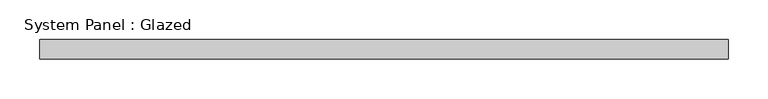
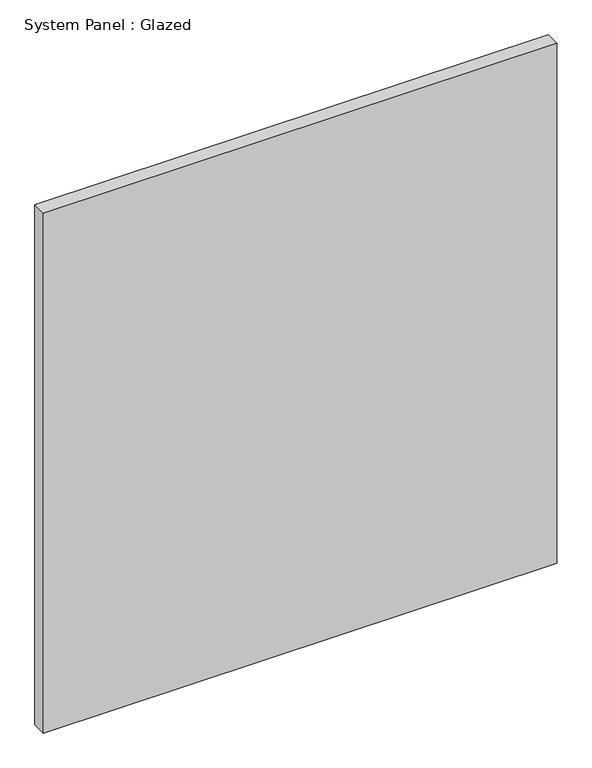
"""IFC4 building model written with IfcOpenShell, lengths in millimetres: plate geometry, System Panel : Glazed."""

from ifc_helpers import new_model, si_unit, origin, origin_with_axes, place, context, project, spatial, polyline, outline, extrude, source, transform, mapped, element, save


def system_panel_glazed_a50661dc(model_context):
    return source(origin(), model_context, "Body", "SweptSolid", [
        extrude(outline(polyline([(434.9959168, -72.5), (-434.9959168, -72.5), (-434.9959168, -47.5), (434.9959168, -47.5), (434.9959168, -72.5)])), origin_with_axes(), (0.0, 0.0, 1.0), 931.25),
    ])


if __name__ == "__main__":
    model = new_model("IFC4")
    model_context = context("Model", 3, world=origin())
    ifc_project = project(units=[si_unit("LENGTHUNIT", "METRE", prefix="MILLI")], contexts=[model_context])
    site = spatial("IfcSite", under=ifc_project)
    building = spatial("IfcBuilding", under=site)
    placement = place(None, origin())
    system_panel_glazed_shape = system_panel_glazed_a50661dc(model_context)
    element("IfcPlate", 1, ObjectType="System Panel : Glazed", at=placement, inside=building, context=model_context, shape_type="MappedRepresentation", body=[
        mapped(system_panel_glazed_shape, transform((0.0, 0.0, 0.0), x_axis=(1.0, 0.0, 0.0), y_axis=(0.0, 1.0, 0.0), z_axis=(0.0, 0.0, 1.0))),
    ])
    save(model, "model.ifc")
